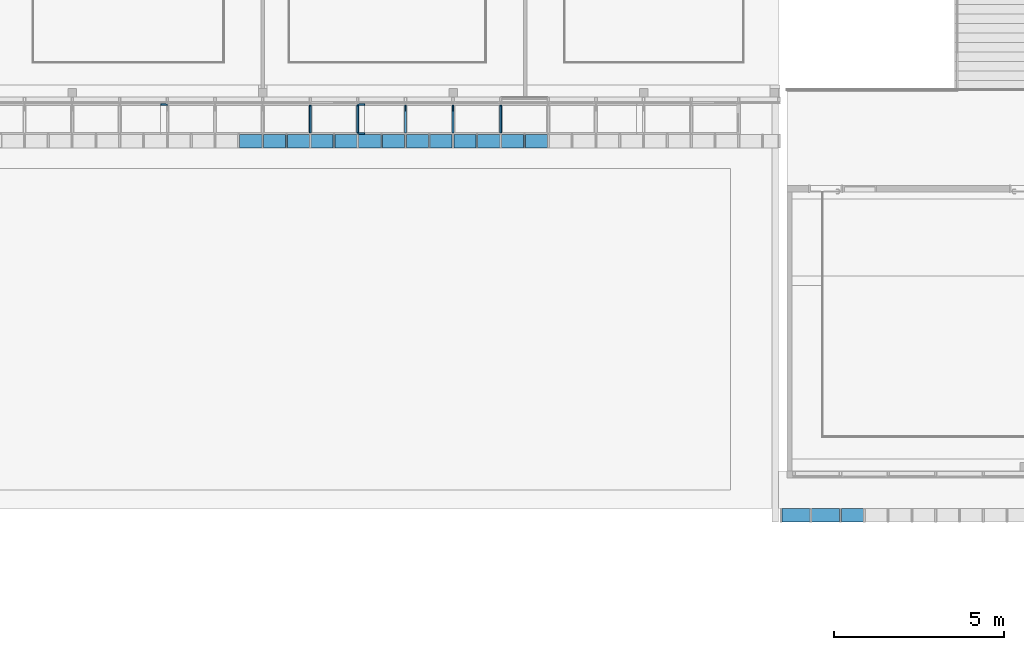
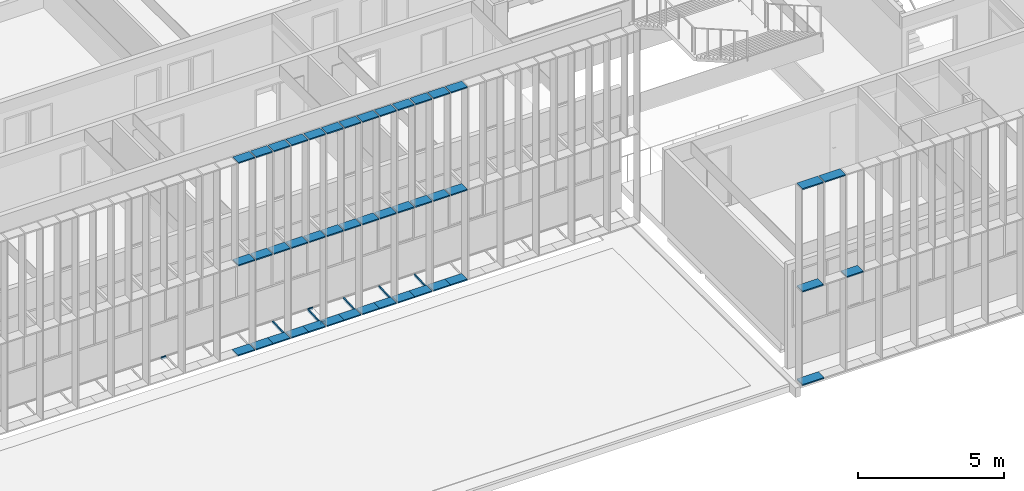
# One storey, part 22 of 106: 52 members, 3 elements without a shape of their own.
"""IFC2X3 building model written with IfcOpenShell, lengths in centimetres."""

from ifc_helpers import new_model, entity, si_unit, converted_unit, derived_unit, direction, frame, origin, origin_2d_with_axis, place, context, subcontext, project, spatial, rectangle, extrude, source, transform, mapped, material, type_object, type_shapes, element, aggregate, save


model = new_model("IFC2X3")

# Units and contexts
model_context = context("Model", 3, precision=0.001, world=origin(), true_north=direction((6.12303176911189e-17, 1.0)))
body_context = subcontext(model_context, "Body", "Model", "MODEL_VIEW")
ifc_project = project(units=[si_unit("LENGTHUNIT", "METRE", prefix="CENTI"), si_unit("AREAUNIT", "SQUARE_METRE"), si_unit("VOLUMEUNIT", "CUBIC_METRE"), converted_unit("PLANEANGLEUNIT", "DEGREE", entity("IfcRatioMeasure", 0.0174532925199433), si_unit("PLANEANGLEUNIT", "RADIAN"), dimensions=[0, 0, 0, 0, 0, 0, 0]), si_unit("MASSUNIT", "GRAM", prefix="KILO"), derived_unit("MASSDENSITYUNIT", [(si_unit("MASSUNIT", "GRAM", prefix="KILO"), 1), (si_unit("LENGTHUNIT", "METRE"), -3)]), si_unit("TIMEUNIT", "SECOND"), si_unit("FREQUENCYUNIT", "HERTZ"), si_unit("THERMODYNAMICTEMPERATUREUNIT", "DEGREE_CELSIUS"), derived_unit("THERMALTRANSMITTANCEUNIT", [(si_unit("MASSUNIT", "GRAM", prefix="KILO"), 1), (si_unit("THERMODYNAMICTEMPERATUREUNIT", "KELVIN"), -1), (si_unit("TIMEUNIT", "SECOND"), -3)]), derived_unit("VOLUMETRICFLOWRATEUNIT", [(si_unit("LENGTHUNIT", "METRE"), 3), (si_unit("TIMEUNIT", "SECOND"), -1)]), si_unit("ELECTRICCURRENTUNIT", "AMPERE"), si_unit("ELECTRICVOLTAGEUNIT", "VOLT"), si_unit("POWERUNIT", "WATT"), si_unit("FORCEUNIT", "NEWTON", prefix="KILO"), si_unit("ILLUMINANCEUNIT", "LUX"), si_unit("LUMINOUSFLUXUNIT", "LUMEN"), si_unit("LUMINOUSINTENSITYUNIT", "CANDELA"), derived_unit("USERDEFINED", [(si_unit("MASSUNIT", "GRAM", prefix="KILO"), -1), (si_unit("LENGTHUNIT", "METRE"), -2), (si_unit("TIMEUNIT", "SECOND"), 3), (si_unit("LUMINOUSFLUXUNIT", "LUMEN"), 1)]), derived_unit("LINEARVELOCITYUNIT", [(si_unit("LENGTHUNIT", "METRE"), 1), (si_unit("TIMEUNIT", "SECOND"), -1)]), si_unit("PRESSUREUNIT", "PASCAL"), derived_unit("USERDEFINED", [(si_unit("LENGTHUNIT", "METRE"), -2), (si_unit("MASSUNIT", "GRAM", prefix="KILO"), 1), (si_unit("TIMEUNIT", "SECOND"), -2)])], contexts=[model_context])

# Site, building, storey
site_placement = place(None, frame((-2781.94577612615, 7442.24238424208, 0.0)))
site = spatial("IfcSite", under=ifc_project, at=site_placement, Name="Default", CompositionType="ELEMENT")
building_placement = place(site_placement, origin())
building = spatial("IfcBuilding", under=site, at=building_placement, CompositionType="ELEMENT")
storey_placement = place(building_placement, frame((0.0, 0.0, 422.0)))
storey = spatial("IfcBuildingStorey", under=building, at=storey_placement, Name="Toiture - Cuisine", CompositionType="ELEMENT", Elevation=421.999999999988)

# Roof, members
curtain_wall_type_1 = type_object("IfcCurtainWallType", Name="Vitres inclinées:Toit en verre 1 m x 2 m", PredefinedType="NOTDEFINED")
roof_placement = place(building_placement, origin())
roof = element("IfcRoof", 1, at=roof_placement, inside=storey, type_object=curtain_wall_type_1, Name="Vitres inclinées:Toit en verre 1 m x 2 m", ObjectType="Vitres inclinées:Toit en verre 1 m x 2 m", ShapeType="NOTDEFINED")
ifc_material_1 = material(Name="Plastique, blanc opaque")
member_type_1 = type_object("IfcMemberType", Name="100 x 50mm", PredefinedType="MEMBER")
shared_shape_1 = source(origin(), body_context, "Body", "SweptSolid", [
    extrude(rectangle(XDim=10.0, YDim=5.0, at=origin_2d_with_axis()), frame((-2.5, 0.0, -20.0001640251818), z_axis=(0.0, 0.0, 1.0), x_axis=(0.0, -1.0, 0.0)), (0.0, 0.0, 1.0), 20.0001640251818),
])
type_shapes(member_type_1, [shared_shape_1])
member_1_placement = place(building_placement, frame((-6029.50004166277, -1950.34071342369, 362.709847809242), z_axis=(-1.0, 0.0, 0.0), x_axis=(0.0, 0.998629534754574, 0.0523359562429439)))
member_1 = element("IfcMember", 2, at=member_1_placement, type_object=member_type_1, material=ifc_material_1, Name="Meneau rectangulaire:100 x 50mm", ObjectType="Meneau rectangulaire:100 x 50mm", context=body_context, shape_type="MappedRepresentation", body=[
    mapped(shared_shape_1, transform((0.0, 0.0, 0.0), scale=1.0)),
])
member_type_2 = type_object("IfcMemberType", Name="100 x 50mm", PredefinedType="MEMBER")
shared_shape_2 = source(origin(), body_context, "Body", "SweptSolid", [
    extrude(rectangle(XDim=10.0, YDim=5.0, at=origin_2d_with_axis()), frame((-2.5, 0.0, -20.0), z_axis=(0.0, 0.0, 1.0), x_axis=(0.0, -1.0, 0.0)), (0.0, 0.0, 1.0), 20.0000000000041),
])
type_shapes(member_type_2, [shared_shape_2])
member_2_placement = place(building_placement, frame((-6609.49987763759, -1950.34071342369, 362.709847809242), z_axis=(-1.0, 0.0, 0.0), x_axis=(0.0, 0.998629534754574, 0.0523359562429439)))
member_2 = element("IfcMember", 3, at=member_2_placement, type_object=member_type_2, material=ifc_material_1, Name="Meneau rectangulaire:100 x 50mm", ObjectType="Meneau rectangulaire:100 x 50mm", context=body_context, shape_type="MappedRepresentation", body=[
    mapped(shared_shape_2, transform((0.0, 0.0, 0.0), scale=1.0)),
])
member_type_3 = type_object("IfcMemberType", Name="100 x 50mm", PredefinedType="MEMBER")
shared_shape_3 = source(origin(), body_context, "Body", "SweptSolid", [
    extrude(rectangle(XDim=10.0, YDim=5.0, at=origin_2d_with_axis()), frame((-2.5, 0.0, -20.0001640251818), z_axis=(0.0, 0.0, 1.0), x_axis=(0.0, -1.0, 0.0)), (0.0, 0.0, 1.0), 20.0001640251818),
])
type_shapes(member_type_3, [shared_shape_3])
member_3_placement = place(building_placement, frame((-6009.49987763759, -2040.34071342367, 357.99314767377), z_axis=(1.0, 0.0, 0.0), x_axis=(0.0, -0.998629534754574, -0.0523359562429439)))
member_3 = element("IfcMember", 4, at=member_3_placement, type_object=member_type_3, material=ifc_material_1, Name="Meneau rectangulaire:100 x 50mm", ObjectType="Meneau rectangulaire:100 x 50mm", context=body_context, shape_type="MappedRepresentation", body=[
    mapped(shared_shape_3, transform((0.0, 0.0, 0.0), scale=1.0)),
])
member_type_4 = type_object("IfcMemberType", Name="100 x 50mm", PredefinedType="MEMBER")
shared_shape_4 = source(origin(), body_context, "Body", "SweptSolid", [
    extrude(rectangle(XDim=10.0, YDim=5.0, at=origin_2d_with_axis()), frame((0.0, 0.0, -80.1235111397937), z_axis=(0.0, 0.0, 1.0), x_axis=(0.0, -1.0, 0.0)), (0.0, 0.0, 1.0), 80.1235111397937),
])
type_shapes(member_type_4, [shared_shape_4])
member_4_placement = place(building_placement, frame((-6169.50004166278, -1955.33386109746, 362.448168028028), z_axis=(0.0, 0.998629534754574, 0.0523359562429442), x_axis=(1.0, 0.0, 0.0)))
member_4 = element("IfcMember", 5, at=member_4_placement, type_object=member_type_4, material=ifc_material_1, Name="Meneau rectangulaire:100 x 50mm", ObjectType="Meneau rectangulaire:100 x 50mm", context=body_context, shape_type="MappedRepresentation", body=[
    mapped(shared_shape_4, transform((0.0, 0.0, 0.0), scale=1.0)),
])
member_5_placement = place(building_placement, frame((-6029.50004166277, -1955.33386109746, 362.448168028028), z_axis=(0.0, 0.998629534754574, 0.0523359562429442), x_axis=(1.0, 0.0, 0.0)))
member_5 = element("IfcMember", 6, at=member_5_placement, type_object=member_type_4, material=ifc_material_1, Name="Meneau rectangulaire:100 x 50mm", ObjectType="Meneau rectangulaire:100 x 50mm", context=body_context, shape_type="MappedRepresentation", body=[
    mapped(shared_shape_4, transform((0.0, 0.0, 0.0), scale=1.0)),
])
member_6_placement = place(building_placement, frame((-5889.50004166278, -1955.33386109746, 362.448168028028), z_axis=(0.0, 0.998629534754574, 0.0523359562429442), x_axis=(1.0, 0.0, 0.0)))
member_6 = element("IfcMember", 7, at=member_6_placement, type_object=member_type_4, material=ifc_material_1, Name="Meneau rectangulaire:100 x 50mm", ObjectType="Meneau rectangulaire:100 x 50mm", context=body_context, shape_type="MappedRepresentation", body=[
    mapped(shared_shape_4, transform((0.0, 0.0, 0.0), scale=1.0)),
])
member_7_placement = place(building_placement, frame((-5749.50004166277, -1955.33386109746, 362.448168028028), z_axis=(0.0, 0.998629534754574, 0.0523359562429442), x_axis=(1.0, 0.0, 0.0)))
member_7 = element("IfcMember", 8, at=member_7_placement, type_object=member_type_4, material=ifc_material_1, Name="Meneau rectangulaire:100 x 50mm", ObjectType="Meneau rectangulaire:100 x 50mm", context=body_context, shape_type="MappedRepresentation", body=[
    mapped(shared_shape_4, transform((0.0, 0.0, 0.0), scale=1.0)),
])
member_8_placement = place(building_placement, frame((-5609.50004166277, -1955.33386109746, 362.448168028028), z_axis=(0.0, 0.998629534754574, 0.0523359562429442), x_axis=(1.0, 0.0, 0.0)))
member_8 = element("IfcMember", 9, at=member_8_placement, type_object=member_type_4, material=ifc_material_1, Name="Meneau rectangulaire:100 x 50mm", ObjectType="Meneau rectangulaire:100 x 50mm", context=body_context, shape_type="MappedRepresentation", body=[
    mapped(shared_shape_4, transform((0.0, 0.0, 0.0), scale=1.0)),
])
aggregate(roof, [member_2, member_1, member_3, member_4, member_5, member_6, member_7, member_8])

# Curtain wall, member
curtain_wall_type_2 = type_object("IfcCurtainWallType", Name="Mur-rideau:Epines - 400x30mm", PredefinedType="NOTDEFINED")
curtain_wall_1_placement = place(building_placement, origin())
curtain_wall_1 = element("IfcCurtainWall", 10, at=curtain_wall_1_placement, inside=storey, type_object=curtain_wall_type_2, Name="Mur-rideau:Epines - 400x30mm", ObjectType="Mur-rideau:Epines - 400x30mm")
ifc_material_2 = material(Name="Aluminium")
member_type_5 = type_object("IfcMemberType", Name="Epine sud (400x50 mm)", PredefinedType="MEMBER")
shared_shape_5 = source(origin(), body_context, "Body", "SweptSolid", [
    extrude(rectangle(XDim=40.0, YDim=5.0, at=origin_2d_with_axis()), frame((-2.5, 0.0, -85.0), z_axis=(0.0, 0.0, 1.0), x_axis=(0.0, -1.0, 0.0)), (0.0, 0.0, 1.0), 85.0000000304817),
])
type_shapes(member_type_5, [shared_shape_5])
member_9_placement = place(building_placement, frame((-4782.99987760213, -3160.31349958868, 353.0), z_axis=(-1.0, 0.0, 0.0), x_axis=(0.0, 0.0, -1.0)))
member_9 = element("IfcMember", 11, at=member_9_placement, type_object=member_type_5, material=ifc_material_2, Name="Meneau rectangulaire:Epine sud (400x50 mm)", ObjectType="Meneau rectangulaire:Epine sud (400x50 mm)", context=body_context, shape_type="MappedRepresentation", body=[
    mapped(shared_shape_5, transform((0.0, 0.0, 0.0), scale=1.0)),
])

# Curtain wall, members
curtain_wall_2_placement = place(building_placement, origin())
curtain_wall_2 = element("IfcCurtainWall", 12, at=curtain_wall_2_placement, inside=storey, type_object=curtain_wall_type_2, Name="Mur-rideau:Epines - 400x30mm", ObjectType="Mur-rideau:Epines - 400x30mm")
member_type_6 = type_object("IfcMemberType", Name="Epine sud (400x50 mm)", PredefinedType="MEMBER")
shared_shape_6 = source(origin(), body_context, "Body", "SweptSolid", [
    extrude(rectangle(XDim=40.0, YDim=5.0, at=origin_2d_with_axis()), frame((-2.5, 0.0, -65.0), z_axis=(0.0, 0.0, 1.0), x_axis=(0.0, -1.0, 0.0)), (0.0, 0.0, 1.0), 64.9999999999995),
])
type_shapes(member_type_6, [shared_shape_6])
member_10_placement = place(building_placement, frame((-6311.99987763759, -2060.07903364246, 1176.0), z_axis=(1.0, 0.0, 0.0), x_axis=(0.0, 0.0, 1.0)))
member_10 = element("IfcMember", 13, at=member_10_placement, type_object=member_type_6, material=ifc_material_2, Name="Meneau rectangulaire:Epine sud (400x50 mm)", ObjectType="Meneau rectangulaire:Epine sud (400x50 mm)", context=body_context, shape_type="MappedRepresentation", body=[
    mapped(shared_shape_6, transform((0.0, 0.0, 0.0), scale=1.0)),
])
member_11_placement = place(building_placement, frame((-6171.99987763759, -2060.07903364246, 1176.0), z_axis=(1.0, 0.0, 0.0), x_axis=(0.0, 0.0, 1.0)))
member_11 = element("IfcMember", 14, at=member_11_placement, type_object=member_type_6, material=ifc_material_2, Name="Meneau rectangulaire:Epine sud (400x50 mm)", ObjectType="Meneau rectangulaire:Epine sud (400x50 mm)", context=body_context, shape_type="MappedRepresentation", body=[
    mapped(shared_shape_6, transform((0.0, 0.0, 0.0), scale=1.0)),
])
member_12_placement = place(building_placement, frame((-6031.99987763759, -2060.07903364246, 1176.0), z_axis=(1.0, 0.0, 0.0), x_axis=(0.0, 0.0, 1.0)))
member_12 = element("IfcMember", 15, at=member_12_placement, type_object=member_type_6, material=ifc_material_2, Name="Meneau rectangulaire:Epine sud (400x50 mm)", ObjectType="Meneau rectangulaire:Epine sud (400x50 mm)", context=body_context, shape_type="MappedRepresentation", body=[
    mapped(shared_shape_6, transform((0.0, 0.0, 0.0), scale=1.0)),
])
member_13_placement = place(building_placement, frame((-5891.99987763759, -2060.07903364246, 1176.0), z_axis=(1.0, 0.0, 0.0), x_axis=(0.0, 0.0, 1.0)))
member_13 = element("IfcMember", 16, at=member_13_placement, type_object=member_type_6, material=ifc_material_2, Name="Meneau rectangulaire:Epine sud (400x50 mm)", ObjectType="Meneau rectangulaire:Epine sud (400x50 mm)", context=body_context, shape_type="MappedRepresentation", body=[
    mapped(shared_shape_6, transform((0.0, 0.0, 0.0), scale=1.0)),
])
member_14_placement = place(building_placement, frame((-5751.99987763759, -2060.07903364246, 1176.0), z_axis=(1.0, 0.0, 0.0), x_axis=(0.0, 0.0, 1.0)))
member_14 = element("IfcMember", 17, at=member_14_placement, type_object=member_type_6, material=ifc_material_2, Name="Meneau rectangulaire:Epine sud (400x50 mm)", ObjectType="Meneau rectangulaire:Epine sud (400x50 mm)", context=body_context, shape_type="MappedRepresentation", body=[
    mapped(shared_shape_6, transform((0.0, 0.0, 0.0), scale=1.0)),
])
member_15_placement = place(building_placement, frame((-5611.99987763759, -2060.07903364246, 1176.0), z_axis=(1.0, 0.0, 0.0), x_axis=(0.0, 0.0, 1.0)))
member_15 = element("IfcMember", 18, at=member_15_placement, type_object=member_type_6, material=ifc_material_2, Name="Meneau rectangulaire:Epine sud (400x50 mm)", ObjectType="Meneau rectangulaire:Epine sud (400x50 mm)", context=body_context, shape_type="MappedRepresentation", body=[
    mapped(shared_shape_6, transform((0.0, 0.0, 0.0), scale=1.0)),
])
member_16_placement = place(building_placement, frame((-5471.99987763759, -2060.07903364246, 1176.0), z_axis=(1.0, 0.0, 0.0), x_axis=(0.0, 0.0, 1.0)))
member_16 = element("IfcMember", 19, at=member_16_placement, type_object=member_type_6, material=ifc_material_2, Name="Meneau rectangulaire:Epine sud (400x50 mm)", ObjectType="Meneau rectangulaire:Epine sud (400x50 mm)", context=body_context, shape_type="MappedRepresentation", body=[
    mapped(shared_shape_6, transform((0.0, 0.0, 0.0), scale=1.0)),
])
member_17_placement = place(building_placement, frame((-6241.99987763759, -2060.07903364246, 1176.0), z_axis=(1.0, 0.0, 0.0), x_axis=(0.0, 0.0, 1.0)))
member_17 = element("IfcMember", 20, at=member_17_placement, type_object=member_type_6, material=ifc_material_2, Name="Meneau rectangulaire:Epine sud (400x50 mm)", ObjectType="Meneau rectangulaire:Epine sud (400x50 mm)", context=body_context, shape_type="MappedRepresentation", body=[
    mapped(shared_shape_6, transform((0.0, 0.0, 0.0), scale=1.0)),
])
member_18_placement = place(building_placement, frame((-6101.99987763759, -2060.07903364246, 1176.0), z_axis=(1.0, 0.0, 0.0), x_axis=(0.0, 0.0, 1.0)))
member_18 = element("IfcMember", 21, at=member_18_placement, type_object=member_type_6, material=ifc_material_2, Name="Meneau rectangulaire:Epine sud (400x50 mm)", ObjectType="Meneau rectangulaire:Epine sud (400x50 mm)", context=body_context, shape_type="MappedRepresentation", body=[
    mapped(shared_shape_6, transform((0.0, 0.0, 0.0), scale=1.0)),
])
member_19_placement = place(building_placement, frame((-5961.99987763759, -2060.07903364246, 1176.0), z_axis=(1.0, 0.0, 0.0), x_axis=(0.0, 0.0, 1.0)))
member_19 = element("IfcMember", 22, at=member_19_placement, type_object=member_type_6, material=ifc_material_2, Name="Meneau rectangulaire:Epine sud (400x50 mm)", ObjectType="Meneau rectangulaire:Epine sud (400x50 mm)", context=body_context, shape_type="MappedRepresentation", body=[
    mapped(shared_shape_6, transform((0.0, 0.0, 0.0), scale=1.0)),
])
member_20_placement = place(building_placement, frame((-5821.99987763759, -2060.07903364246, 1176.0), z_axis=(1.0, 0.0, 0.0), x_axis=(0.0, 0.0, 1.0)))
member_20 = element("IfcMember", 23, at=member_20_placement, type_object=member_type_6, material=ifc_material_2, Name="Meneau rectangulaire:Epine sud (400x50 mm)", ObjectType="Meneau rectangulaire:Epine sud (400x50 mm)", context=body_context, shape_type="MappedRepresentation", body=[
    mapped(shared_shape_6, transform((0.0, 0.0, 0.0), scale=1.0)),
])
member_21_placement = place(building_placement, frame((-5681.99987763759, -2060.07903364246, 1176.0), z_axis=(1.0, 0.0, 0.0), x_axis=(0.0, 0.0, 1.0)))
member_21 = element("IfcMember", 24, at=member_21_placement, type_object=member_type_6, material=ifc_material_2, Name="Meneau rectangulaire:Epine sud (400x50 mm)", ObjectType="Meneau rectangulaire:Epine sud (400x50 mm)", context=body_context, shape_type="MappedRepresentation", body=[
    mapped(shared_shape_6, transform((0.0, 0.0, 0.0), scale=1.0)),
])
member_22_placement = place(building_placement, frame((-5541.99987763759, -2060.07903364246, 1176.0), z_axis=(1.0, 0.0, 0.0), x_axis=(0.0, 0.0, 1.0)))
member_22 = element("IfcMember", 25, at=member_22_placement, type_object=member_type_6, material=ifc_material_2, Name="Meneau rectangulaire:Epine sud (400x50 mm)", ObjectType="Meneau rectangulaire:Epine sud (400x50 mm)", context=body_context, shape_type="MappedRepresentation", body=[
    mapped(shared_shape_6, transform((0.0, 0.0, 0.0), scale=1.0)),
])
member_type_7 = type_object("IfcMemberType", Name="Epine sud (400x50 mm)", PredefinedType="MEMBER")
shared_shape_7 = source(origin(), body_context, "Body", "SweptSolid", [
    extrude(rectangle(XDim=40.0, YDim=5.0, at=origin_2d_with_axis()), frame((-2.5, 0.0, -67.4999999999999), z_axis=(0.0, 0.0, 1.0), x_axis=(0.0, -1.0, 0.0)), (0.0, 0.0, 1.0), 67.5000000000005),
])
type_shapes(member_type_7, [shared_shape_7])
member_23_placement = place(building_placement, frame((-6306.99987763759, -2060.07903364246, 367.449291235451), z_axis=(-1.0, 0.0, 0.0), x_axis=(0.0, 0.0, -1.0)))
member_23 = element("IfcMember", 26, at=member_23_placement, type_object=member_type_7, material=ifc_material_2, Name="Meneau rectangulaire:Epine sud (400x50 mm)", ObjectType="Meneau rectangulaire:Epine sud (400x50 mm)", context=body_context, shape_type="MappedRepresentation", body=[
    mapped(shared_shape_7, transform((0.0, 0.0, 0.0), scale=1.0)),
])
member_24_placement = place(building_placement, frame((-6166.99987763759, -2060.07903364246, 367.449291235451), z_axis=(-1.0, 0.0, 0.0), x_axis=(0.0, 0.0, -1.0)))
member_24 = element("IfcMember", 27, at=member_24_placement, type_object=member_type_7, material=ifc_material_2, Name="Meneau rectangulaire:Epine sud (400x50 mm)", ObjectType="Meneau rectangulaire:Epine sud (400x50 mm)", context=body_context, shape_type="MappedRepresentation", body=[
    mapped(shared_shape_7, transform((0.0, 0.0, 0.0), scale=1.0)),
])
member_25_placement = place(building_placement, frame((-6026.99987763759, -2060.07903364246, 367.449291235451), z_axis=(-1.0, 0.0, 0.0), x_axis=(0.0, 0.0, -1.0)))
member_25 = element("IfcMember", 28, at=member_25_placement, type_object=member_type_7, material=ifc_material_2, Name="Meneau rectangulaire:Epine sud (400x50 mm)", ObjectType="Meneau rectangulaire:Epine sud (400x50 mm)", context=body_context, shape_type="MappedRepresentation", body=[
    mapped(shared_shape_7, transform((0.0, 0.0, 0.0), scale=1.0)),
])
member_26_placement = place(building_placement, frame((-5886.99987763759, -2060.07903364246, 367.449291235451), z_axis=(-1.0, 0.0, 0.0), x_axis=(0.0, 0.0, -1.0)))
member_26 = element("IfcMember", 29, at=member_26_placement, type_object=member_type_7, material=ifc_material_2, Name="Meneau rectangulaire:Epine sud (400x50 mm)", ObjectType="Meneau rectangulaire:Epine sud (400x50 mm)", context=body_context, shape_type="MappedRepresentation", body=[
    mapped(shared_shape_7, transform((0.0, 0.0, 0.0), scale=1.0)),
])
member_27_placement = place(building_placement, frame((-5746.99987763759, -2060.07903364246, 367.449291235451), z_axis=(-1.0, 0.0, 0.0), x_axis=(0.0, 0.0, -1.0)))
member_27 = element("IfcMember", 30, at=member_27_placement, type_object=member_type_7, material=ifc_material_2, Name="Meneau rectangulaire:Epine sud (400x50 mm)", ObjectType="Meneau rectangulaire:Epine sud (400x50 mm)", context=body_context, shape_type="MappedRepresentation", body=[
    mapped(shared_shape_7, transform((0.0, 0.0, 0.0), scale=1.0)),
])
member_28_placement = place(building_placement, frame((-5606.99987763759, -2060.07903364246, 367.449291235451), z_axis=(-1.0, 0.0, 0.0), x_axis=(0.0, 0.0, -1.0)))
member_28 = element("IfcMember", 31, at=member_28_placement, type_object=member_type_7, material=ifc_material_2, Name="Meneau rectangulaire:Epine sud (400x50 mm)", ObjectType="Meneau rectangulaire:Epine sud (400x50 mm)", context=body_context, shape_type="MappedRepresentation", body=[
    mapped(shared_shape_7, transform((0.0, 0.0, 0.0), scale=1.0)),
])

# Member
member_type_8 = type_object("IfcMemberType", Name="Epine sud (400x50 mm)", PredefinedType="MEMBER")
shared_shape_8 = source(origin(), body_context, "Body", "SweptSolid", [
    extrude(rectangle(XDim=40.0, YDim=5.0, at=origin_2d_with_axis()), frame((-2.5, 0.0, -82.4999999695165), z_axis=(0.0, 0.0, 1.0), x_axis=(0.0, -1.0, 0.0)), (0.0, 0.0, 1.0), 82.4999999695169),
])
type_shapes(member_type_8, [shared_shape_8])
member_29_placement = place(building_placement, frame((-4612.99987760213, -3160.31349958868, 1176.0), z_axis=(1.0, 0.0, 0.0), x_axis=(0.0, 0.0, 1.0)))
member_29 = element("IfcMember", 32, at=member_29_placement, type_object=member_type_8, material=ifc_material_2, Name="Meneau rectangulaire:Epine sud (400x50 mm)", ObjectType="Meneau rectangulaire:Epine sud (400x50 mm)", context=body_context, shape_type="MappedRepresentation", body=[
    mapped(shared_shape_8, transform((0.0, 0.0, 0.0), scale=1.0)),
])

member_30_placement = place(building_placement, frame((-4700.49987757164, -3160.31349958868, 1176.0), z_axis=(1.0, 0.0, 0.0), x_axis=(0.0, 0.0, 1.0)))
member_30 = element("IfcMember", 33, at=member_30_placement, type_object=member_type_8, material=ifc_material_2, Name="Meneau rectangulaire:Epine sud (400x50 mm)", ObjectType="Meneau rectangulaire:Epine sud (400x50 mm)", context=body_context, shape_type="MappedRepresentation", body=[
    mapped(shared_shape_8, transform((0.0, 0.0, 0.0), scale=1.0)),
])

member_type_9 = type_object("IfcMemberType", Name="Epine sud (400x50 mm)", PredefinedType="MEMBER")
shared_shape_9 = source(origin(), body_context, "Body", "SweptSolid", [
    extrude(rectangle(XDim=40.0, YDim=5.0, at=origin_2d_with_axis()), frame((0.0, 0.0, -82.5000000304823), z_axis=(0.0, 0.0, 1.0), x_axis=(0.0, -1.0, 0.0)), (0.0, 0.0, 1.0), 82.5000000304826),
])
type_shapes(member_type_9, [shared_shape_9])
member_31_placement = place(building_placement, frame((-4700.49987757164, -3160.31349958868, 745.5), z_axis=(1.0, 0.0, 0.0), x_axis=(0.0, 0.0, 1.0)))
member_31 = element("IfcMember", 34, at=member_31_placement, type_object=member_type_9, material=ifc_material_2, Name="Meneau rectangulaire:Epine sud (400x50 mm)", ObjectType="Meneau rectangulaire:Epine sud (400x50 mm)", context=body_context, shape_type="MappedRepresentation", body=[
    mapped(shared_shape_9, transform((0.0, 0.0, 0.0), scale=1.0)),
])

member_type_10 = type_object("IfcMemberType", Name="Epine sud (400x50 mm)", PredefinedType="MEMBER")
shared_shape_10 = source(origin(), body_context, "Body", "SweptSolid", [
    extrude(rectangle(XDim=40.0, YDim=5.0, at=origin_2d_with_axis()), frame((0.0, 0.0, -65.0), z_axis=(0.0, 0.0, 1.0), x_axis=(0.0, -1.0, 0.0)), (0.0, 0.0, 1.0), 65.0000000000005),
])
type_shapes(member_type_10, [shared_shape_10])
member_32_placement = place(building_placement, frame((-4542.99987760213, -3160.31349958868, 745.5), z_axis=(1.0, 0.0, 0.0), x_axis=(0.0, 0.0, 1.0)))
member_32 = element("IfcMember", 35, at=member_32_placement, type_object=member_type_10, material=ifc_material_2, Name="Meneau rectangulaire:Epine sud (400x50 mm)", ObjectType="Meneau rectangulaire:Epine sud (400x50 mm)", context=body_context, shape_type="MappedRepresentation", body=[
    mapped(shared_shape_10, transform((0.0, 0.0, 0.0), scale=1.0)),
])

aggregate(curtain_wall_1, [member_9, member_29, member_31, member_32, member_30])

member_33_placement = place(building_placement, frame((-6241.99987763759, -2060.07903364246, 745.4), z_axis=(1.0, 0.0, 0.0), x_axis=(0.0, 0.0, 1.0)))
member_33 = element("IfcMember", 36, at=member_33_placement, type_object=member_type_10, material=ifc_material_2, Name="Meneau rectangulaire:Epine sud (400x50 mm)", ObjectType="Meneau rectangulaire:Epine sud (400x50 mm)", context=body_context, shape_type="MappedRepresentation", body=[
    mapped(shared_shape_10, transform((0.0, 0.0, 0.0), scale=1.0)),
])

member_34_placement = place(building_placement, frame((-6101.99987763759, -2060.07903364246, 745.4), z_axis=(1.0, 0.0, 0.0), x_axis=(0.0, 0.0, 1.0)))
member_34 = element("IfcMember", 37, at=member_34_placement, type_object=member_type_10, material=ifc_material_2, Name="Meneau rectangulaire:Epine sud (400x50 mm)", ObjectType="Meneau rectangulaire:Epine sud (400x50 mm)", context=body_context, shape_type="MappedRepresentation", body=[
    mapped(shared_shape_10, transform((0.0, 0.0, 0.0), scale=1.0)),
])

member_35_placement = place(building_placement, frame((-5961.99987763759, -2060.07903364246, 745.4), z_axis=(1.0, 0.0, 0.0), x_axis=(0.0, 0.0, 1.0)))
member_35 = element("IfcMember", 38, at=member_35_placement, type_object=member_type_10, material=ifc_material_2, Name="Meneau rectangulaire:Epine sud (400x50 mm)", ObjectType="Meneau rectangulaire:Epine sud (400x50 mm)", context=body_context, shape_type="MappedRepresentation", body=[
    mapped(shared_shape_10, transform((0.0, 0.0, 0.0), scale=1.0)),
])

member_36_placement = place(building_placement, frame((-5821.99987763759, -2060.07903364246, 745.4), z_axis=(1.0, 0.0, 0.0), x_axis=(0.0, 0.0, 1.0)))
member_36 = element("IfcMember", 39, at=member_36_placement, type_object=member_type_10, material=ifc_material_2, Name="Meneau rectangulaire:Epine sud (400x50 mm)", ObjectType="Meneau rectangulaire:Epine sud (400x50 mm)", context=body_context, shape_type="MappedRepresentation", body=[
    mapped(shared_shape_10, transform((0.0, 0.0, 0.0), scale=1.0)),
])

member_37_placement = place(building_placement, frame((-5681.99987763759, -2060.07903364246, 745.4), z_axis=(1.0, 0.0, 0.0), x_axis=(0.0, 0.0, 1.0)))
member_37 = element("IfcMember", 40, at=member_37_placement, type_object=member_type_10, material=ifc_material_2, Name="Meneau rectangulaire:Epine sud (400x50 mm)", ObjectType="Meneau rectangulaire:Epine sud (400x50 mm)", context=body_context, shape_type="MappedRepresentation", body=[
    mapped(shared_shape_10, transform((0.0, 0.0, 0.0), scale=1.0)),
])

member_38_placement = place(building_placement, frame((-5541.99987763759, -2060.07903364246, 745.4), z_axis=(1.0, 0.0, 0.0), x_axis=(0.0, 0.0, 1.0)))
member_38 = element("IfcMember", 41, at=member_38_placement, type_object=member_type_10, material=ifc_material_2, Name="Meneau rectangulaire:Epine sud (400x50 mm)", ObjectType="Meneau rectangulaire:Epine sud (400x50 mm)", context=body_context, shape_type="MappedRepresentation", body=[
    mapped(shared_shape_10, transform((0.0, 0.0, 0.0), scale=1.0)),
])

member_39_placement = place(building_placement, frame((-6311.99987763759, -2060.07903364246, 745.4), z_axis=(1.0, 0.0, 0.0), x_axis=(0.0, 0.0, 1.0)))
member_39 = element("IfcMember", 42, at=member_39_placement, type_object=member_type_10, material=ifc_material_2, Name="Meneau rectangulaire:Epine sud (400x50 mm)", ObjectType="Meneau rectangulaire:Epine sud (400x50 mm)", context=body_context, shape_type="MappedRepresentation", body=[
    mapped(shared_shape_10, transform((0.0, 0.0, 0.0), scale=1.0)),
])

member_40_placement = place(building_placement, frame((-6171.99987763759, -2060.07903364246, 745.4), z_axis=(1.0, 0.0, 0.0), x_axis=(0.0, 0.0, 1.0)))
member_40 = element("IfcMember", 43, at=member_40_placement, type_object=member_type_10, material=ifc_material_2, Name="Meneau rectangulaire:Epine sud (400x50 mm)", ObjectType="Meneau rectangulaire:Epine sud (400x50 mm)", context=body_context, shape_type="MappedRepresentation", body=[
    mapped(shared_shape_10, transform((0.0, 0.0, 0.0), scale=1.0)),
])

member_41_placement = place(building_placement, frame((-6031.99987763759, -2060.07903364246, 745.4), z_axis=(1.0, 0.0, 0.0), x_axis=(0.0, 0.0, 1.0)))
member_41 = element("IfcMember", 44, at=member_41_placement, type_object=member_type_10, material=ifc_material_2, Name="Meneau rectangulaire:Epine sud (400x50 mm)", ObjectType="Meneau rectangulaire:Epine sud (400x50 mm)", context=body_context, shape_type="MappedRepresentation", body=[
    mapped(shared_shape_10, transform((0.0, 0.0, 0.0), scale=1.0)),
])

member_42_placement = place(building_placement, frame((-5891.99987763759, -2060.07903364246, 745.4), z_axis=(1.0, 0.0, 0.0), x_axis=(0.0, 0.0, 1.0)))
member_42 = element("IfcMember", 45, at=member_42_placement, type_object=member_type_10, material=ifc_material_2, Name="Meneau rectangulaire:Epine sud (400x50 mm)", ObjectType="Meneau rectangulaire:Epine sud (400x50 mm)", context=body_context, shape_type="MappedRepresentation", body=[
    mapped(shared_shape_10, transform((0.0, 0.0, 0.0), scale=1.0)),
])

member_43_placement = place(building_placement, frame((-5751.99987763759, -2060.07903364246, 745.4), z_axis=(1.0, 0.0, 0.0), x_axis=(0.0, 0.0, 1.0)))
member_43 = element("IfcMember", 46, at=member_43_placement, type_object=member_type_10, material=ifc_material_2, Name="Meneau rectangulaire:Epine sud (400x50 mm)", ObjectType="Meneau rectangulaire:Epine sud (400x50 mm)", context=body_context, shape_type="MappedRepresentation", body=[
    mapped(shared_shape_10, transform((0.0, 0.0, 0.0), scale=1.0)),
])

member_44_placement = place(building_placement, frame((-5611.99987763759, -2060.07903364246, 745.4), z_axis=(1.0, 0.0, 0.0), x_axis=(0.0, 0.0, 1.0)))
member_44 = element("IfcMember", 47, at=member_44_placement, type_object=member_type_10, material=ifc_material_2, Name="Meneau rectangulaire:Epine sud (400x50 mm)", ObjectType="Meneau rectangulaire:Epine sud (400x50 mm)", context=body_context, shape_type="MappedRepresentation", body=[
    mapped(shared_shape_10, transform((0.0, 0.0, 0.0), scale=1.0)),
])

member_45_placement = place(building_placement, frame((-5471.99987763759, -2060.07903364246, 745.4), z_axis=(1.0, 0.0, 0.0), x_axis=(0.0, 0.0, 1.0)))
member_45 = element("IfcMember", 48, at=member_45_placement, type_object=member_type_10, material=ifc_material_2, Name="Meneau rectangulaire:Epine sud (400x50 mm)", ObjectType="Meneau rectangulaire:Epine sud (400x50 mm)", context=body_context, shape_type="MappedRepresentation", body=[
    mapped(shared_shape_10, transform((0.0, 0.0, 0.0), scale=1.0)),
])

member_type_11 = type_object("IfcMemberType", Name="Epine sud (400x50 mm)", PredefinedType="MEMBER")
shared_shape_11 = source(origin(), body_context, "Body", "SweptSolid", [
    extrude(rectangle(XDim=40.0, YDim=5.0, at=origin_2d_with_axis()), frame((-2.5, 0.0, -67.4999999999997), z_axis=(0.0, 0.0, 1.0), x_axis=(0.0, -1.0, 0.0)), (0.0, 0.0, 1.0), 67.4999999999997),
])
type_shapes(member_type_11, [shared_shape_11])
member_46_placement = place(building_placement, frame((-6379.49987763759, -2060.07903364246, 367.449291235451), z_axis=(-1.0, 0.0, 0.0), x_axis=(0.0, 0.0, -1.0)))
member_46 = element("IfcMember", 49, at=member_46_placement, type_object=member_type_11, material=ifc_material_2, Name="Meneau rectangulaire:Epine sud (400x50 mm)", ObjectType="Meneau rectangulaire:Epine sud (400x50 mm)", context=body_context, shape_type="MappedRepresentation", body=[
    mapped(shared_shape_11, transform((0.0, 0.0, 0.0), scale=1.0)),
])

member_47_placement = place(building_placement, frame((-6239.49987763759, -2060.07903364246, 367.449291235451), z_axis=(-1.0, 0.0, 0.0), x_axis=(0.0, 0.0, -1.0)))
member_47 = element("IfcMember", 50, at=member_47_placement, type_object=member_type_11, material=ifc_material_2, Name="Meneau rectangulaire:Epine sud (400x50 mm)", ObjectType="Meneau rectangulaire:Epine sud (400x50 mm)", context=body_context, shape_type="MappedRepresentation", body=[
    mapped(shared_shape_11, transform((0.0, 0.0, 0.0), scale=1.0)),
])

member_48_placement = place(building_placement, frame((-6099.49987763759, -2060.07903364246, 367.449291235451), z_axis=(-1.0, 0.0, 0.0), x_axis=(0.0, 0.0, -1.0)))
member_48 = element("IfcMember", 51, at=member_48_placement, type_object=member_type_11, material=ifc_material_2, Name="Meneau rectangulaire:Epine sud (400x50 mm)", ObjectType="Meneau rectangulaire:Epine sud (400x50 mm)", context=body_context, shape_type="MappedRepresentation", body=[
    mapped(shared_shape_11, transform((0.0, 0.0, 0.0), scale=1.0)),
])

member_49_placement = place(building_placement, frame((-5959.49987763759, -2060.07903364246, 367.449291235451), z_axis=(-1.0, 0.0, 0.0), x_axis=(0.0, 0.0, -1.0)))
member_49 = element("IfcMember", 52, at=member_49_placement, type_object=member_type_11, material=ifc_material_2, Name="Meneau rectangulaire:Epine sud (400x50 mm)", ObjectType="Meneau rectangulaire:Epine sud (400x50 mm)", context=body_context, shape_type="MappedRepresentation", body=[
    mapped(shared_shape_11, transform((0.0, 0.0, 0.0), scale=1.0)),
])

member_50_placement = place(building_placement, frame((-5819.49987763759, -2060.07903364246, 367.449291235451), z_axis=(-1.0, 0.0, 0.0), x_axis=(0.0, 0.0, -1.0)))
member_50 = element("IfcMember", 53, at=member_50_placement, type_object=member_type_11, material=ifc_material_2, Name="Meneau rectangulaire:Epine sud (400x50 mm)", ObjectType="Meneau rectangulaire:Epine sud (400x50 mm)", context=body_context, shape_type="MappedRepresentation", body=[
    mapped(shared_shape_11, transform((0.0, 0.0, 0.0), scale=1.0)),
])

member_51_placement = place(building_placement, frame((-5679.49987763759, -2060.07903364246, 367.449291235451), z_axis=(-1.0, 0.0, 0.0), x_axis=(0.0, 0.0, -1.0)))
member_51 = element("IfcMember", 54, at=member_51_placement, type_object=member_type_11, material=ifc_material_2, Name="Meneau rectangulaire:Epine sud (400x50 mm)", ObjectType="Meneau rectangulaire:Epine sud (400x50 mm)", context=body_context, shape_type="MappedRepresentation", body=[
    mapped(shared_shape_11, transform((0.0, 0.0, 0.0), scale=1.0)),
])

member_52_placement = place(building_placement, frame((-5539.49987763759, -2060.07903364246, 367.449291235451), z_axis=(-1.0, 0.0, 0.0), x_axis=(0.0, 0.0, -1.0)))
member_52 = element("IfcMember", 55, at=member_52_placement, type_object=member_type_11, material=ifc_material_2, Name="Meneau rectangulaire:Epine sud (400x50 mm)", ObjectType="Meneau rectangulaire:Epine sud (400x50 mm)", context=body_context, shape_type="MappedRepresentation", body=[
    mapped(shared_shape_11, transform((0.0, 0.0, 0.0), scale=1.0)),
])

aggregate(curtain_wall_2, [member_10, member_23, member_33, member_11, member_24, member_34, member_12, member_25, member_35, member_13, member_26, member_36, member_14, member_27, member_37, member_15, member_28, member_38, member_16, member_46, member_39, member_17, member_47, member_40, member_18, member_48, member_41, member_19, member_49, member_42, member_20, member_50, member_43, member_21, member_51, member_44, member_22, member_52, member_45])

save(model, "model.ifc")
